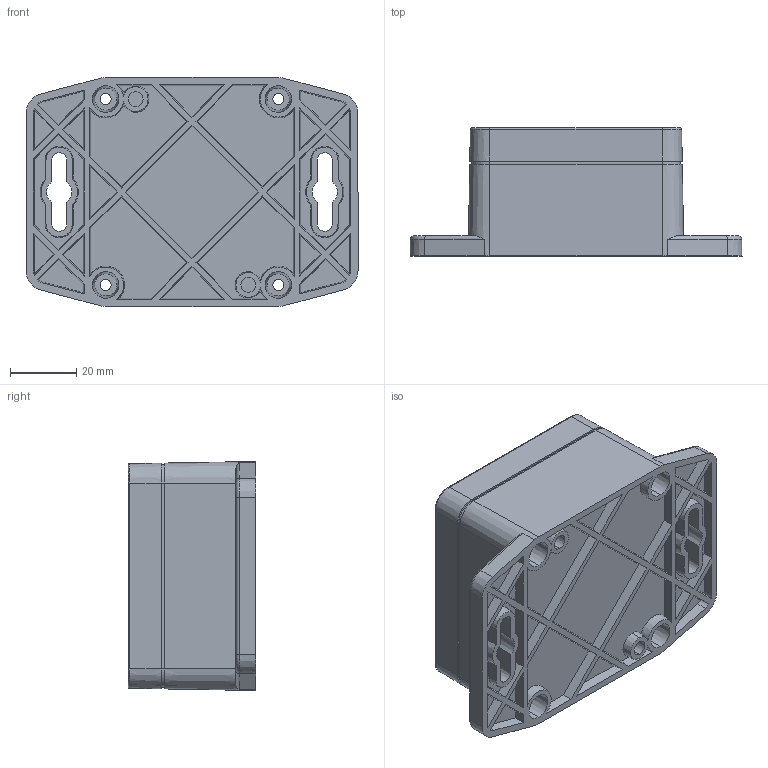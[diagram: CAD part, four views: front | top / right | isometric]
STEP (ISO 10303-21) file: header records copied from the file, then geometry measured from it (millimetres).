
FILE_DESCRIPTION (( 'STEP AP203' ), '1' );
FILE_NAME ('SF-205-0-0.STEP', '2022-09-06T07:04:17', ( '' ), ( '' ), 'SwSTEP 2.0', 'SolidWorks 2021', '' );
FILE_SCHEMA (( 'CONFIG_CONTROL_DESIGN' ));
Length unit declared in the file: millimetre
Products named in the file (3): SE-205-P-1; SF-205-P-1; SF-205-0-0
Assembly tree (2 placements, depth 2):
  SF-205-0-0
    SF-205-P-1
    SE-205-P-1
Bounding box: 100 x 38.5 x 68.99 mm (x, y, z)
Volume: 66915.9 mm3; surface area: 50547.1 mm2
Topology: 2 solids, 2 shells, 520 faces, 1331 edges, 882 vertices
Faces by surface type: plane 275, cone 163, cylinder 74, torus 8
Entity records: 16320 total; most frequent: CARTESIAN_POINT 2944, DIRECTION 2809, ORIENTED_EDGE 2662, EDGE_CURVE 1331, AXIS2_PLACEMENT_3D 1007, VERTEX_POINT 882, VECTOR 795, LINE 795
